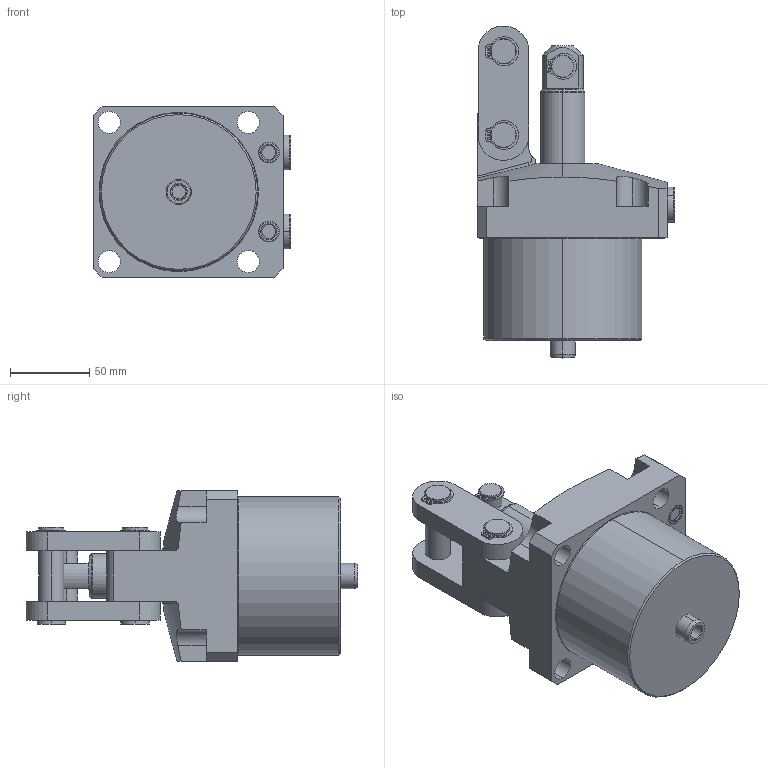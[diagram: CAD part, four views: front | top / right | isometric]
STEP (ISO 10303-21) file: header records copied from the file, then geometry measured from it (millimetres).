
FILE_DESCRIPTION(/* description */ (''),/* implementation_level */ '2;1');
FILE_NAME(/* name */ 'TPC25-FD.stp',/* time_stamp */ '2025-01-05T10:10:13+08:00',/* author */ (''),/* organization */ (''),/* preprocessor_version */ 'ST-DEVELOPER v16.7',/* originating_system */ 'SIEMENS PLM Software NX 12.0',/* authorisation */ '');
FILE_SCHEMA (('AUTOMOTIVE_DESIGN { 1 0 10303 214 3 1 1 1 }'));
Length unit declared in the file: millimetre
Products named in the file (5): TPC25-FD-04; TPC25-FD-03; TPC25-FD-02; TPC25-FD-01; TPC25-FD_stp
Assembly tree (5 placements, depth 2):
  TPC25-FD_stp
    TPC25-FD-01
    TPC25-FD-02
    TPC25-FD-03
    TPC25-FD-04  x2
Bounding box: 124.8 x 210 x 108 mm (x, y, z)
Volume: 1139179.4 mm3; surface area: 118508.5 mm2
Topology: 5 solids, 7 shells, 302 faces, 712 edges, 452 vertices
Faces by surface type: cylinder 126, plane 117, torus 34, cone 25
Entity records: 8450 total; most frequent: CARTESIAN_POINT 1599, DIRECTION 1512, ORIENTED_EDGE 1332, EDGE_CURVE 666, AXIS2_PLACEMENT_3D 603, VERTEX_POINT 424, EDGE_LOOP 328, CIRCLE 317
